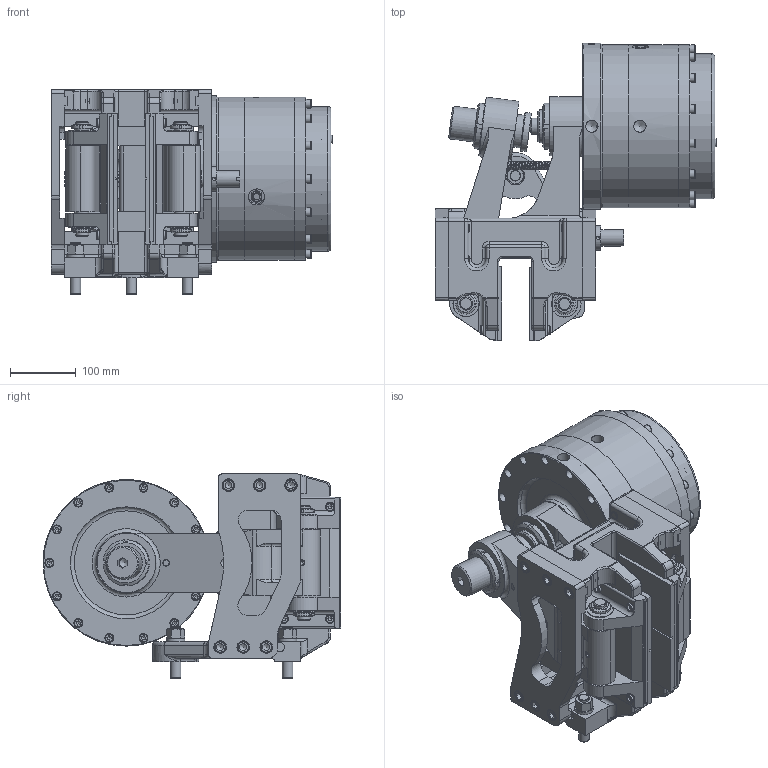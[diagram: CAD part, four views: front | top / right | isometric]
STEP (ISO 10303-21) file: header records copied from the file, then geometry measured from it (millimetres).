
FILE_DESCRIPTION(/* description */ ('','CAx-IF Rec.Pracs.---Representation and Presentation of Product Manufacturing Information (PMI)---4.0---2014-10-13'),/* implementation_level */ '2;1');
FILE_NAME(/* name */ 'X:\INVENTOR\DISEGNI\19_Pinze\STEP x Sito\PNEUM-NEGATIVE-PR\19_76_064_06 PPT-N064_40_PR.stp',/* time_stamp */ '2018-10-25T16:38:48+02:00',/* author */ ('stefano'),/* organization */ (''),/* preprocessor_version */ 'ST-DEVELOPER v17',/* originating_system */ 'Autodesk Inventor 2018',/* authorisation */ '');
FILE_SCHEMA (('AP242_MANAGED_MODEL_BASED_3D_ENGINEERING_MIM_LF { 1 0 10303 442 1 1 4 }'));
Products named in the file (1): 19_76_064_06 PPT-N064_40_PR_Substitute_1
Bounding box: 428.25 x 452.5 x 310 mm (x, y, z)
Volume: 12455244 mm3; surface area: 1575570.7 mm2
Topology: 1 solids, 1 shells, 2160 faces, 5974 edges, 3950 vertices
Faces by surface type: plane 1079, cylinder 606, torus 214, cone 209, bspline 32, sphere 20
Full cylindrical faces by diameter (mm): 1.8 x2, 2.5 x1, 4.917 x6, 5 x4, 5.25 x4, 6.3 x6, 6.647 x1, 6.917 x1, 7.4 x1, 7.5 x2, 8 x8, 8.25 x1, 8.376 x1, 8.5 x8, 8.917 x2, 9 x1, 9.188 x1, 10 x6, 10.106 x5, 10.5 x5, 11.445 x2, 12 x16, 12.5 x13, 13 x36, 13.157 x2, 13.5 x22, 14 x1, 15 x2, 16 x6, 16.5 x4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
Entity records: 81629 total; most frequent: CARTESIAN_POINT 24427, ORIENTED_EDGE 11758, DIRECTION 11740, EDGE_CURVE 5879, AXIS2_PLACEMENT_3D 4547, VERTEX_POINT 3950, LINE 2646, VECTOR 2646
